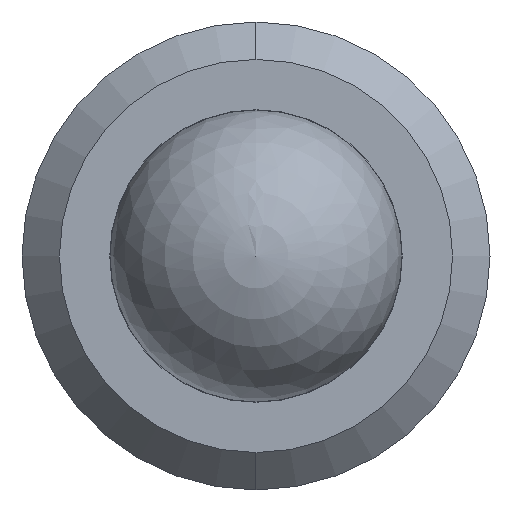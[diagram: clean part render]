
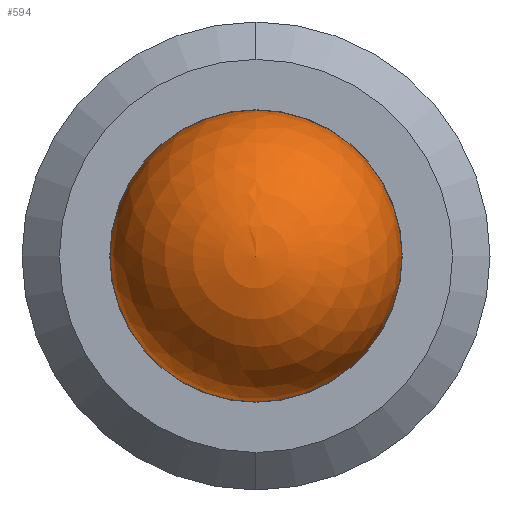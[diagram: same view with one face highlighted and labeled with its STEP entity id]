
A CAD part, left-side view. The second image highlights one B-rep face of the part: STEP entity #594.
In plain terms, the highlighted spherical face has radius 1.984 mm.
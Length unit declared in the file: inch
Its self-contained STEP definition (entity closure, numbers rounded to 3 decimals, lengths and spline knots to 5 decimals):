
#35 = VERTEX_POINT ( 'NONE', #448 ) ;
#37 = VERTEX_POINT ( 'NONE', #492 ) ;
#61 = DIRECTION ( 'NONE',  ( 0., 0., -1. ) ) ;
#83 = ORIENTED_EDGE ( 'NONE', *, *, #213, .T. ) ;
#107 = EDGE_LOOP ( 'NONE', ( #153, #83 ) ) ;
#153 = ORIENTED_EDGE ( 'NONE', *, *, #197, .F. ) ;
#188 = SPHERICAL_SURFACE ( 'NONE', #344, 0.07813 ) ;
#197 = EDGE_CURVE ( 'NONE', #35, #37, #464, .T. ) ;
#208 = FACE_OUTER_BOUND ( 'NONE', #107, .T. ) ;
#213 = EDGE_CURVE ( 'NONE', #35, #37, #456, .T. ) ;
#254 = CARTESIAN_POINT ( 'NONE',  ( 0., 0., 0. ) ) ;
#288 = DIRECTION ( 'NONE',  ( 0., 0., 1. ) ) ;
#289 = DIRECTION ( 'NONE',  ( 0., 0., 1. ) ) ;
#344 = AXIS2_PLACEMENT_3D ( 'NONE', #616, #447, #289 ) ;
#380 = DIRECTION ( 'NONE',  ( 1., 0., 0. ) ) ;
#447 = DIRECTION ( 'NONE',  ( -1., 0., 0. ) ) ;
#448 = CARTESIAN_POINT ( 'NONE',  ( 0., 0.07813, 0. ) ) ;
#456 = CIRCLE ( 'NONE', #554, 0.07813 ) ;
#464 = CIRCLE ( 'NONE', #558, 0.07813 ) ;
#492 = CARTESIAN_POINT ( 'NONE',  ( 0., -0.07813, 0. ) ) ;
#537 = DIRECTION ( 'NONE',  ( -1., 0., 0. ) ) ;
#554 = AXIS2_PLACEMENT_3D ( 'NONE', #254, #537, #288 ) ;
#558 = AXIS2_PLACEMENT_3D ( 'NONE', #623, #380, #61 ) ;
#594 = ADVANCED_FACE ( 'NONE', ( #208 ), #188, .T. ) ;
#616 = CARTESIAN_POINT ( 'NONE',  ( 0., 0., 0. ) ) ;
#623 = CARTESIAN_POINT ( 'NONE',  ( 0., 0., 0. ) ) ;
